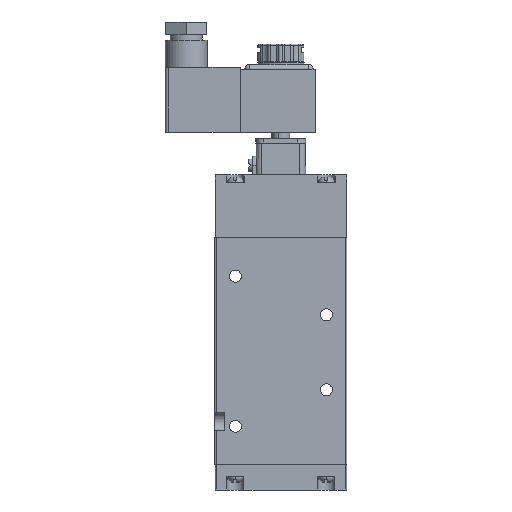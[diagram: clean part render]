
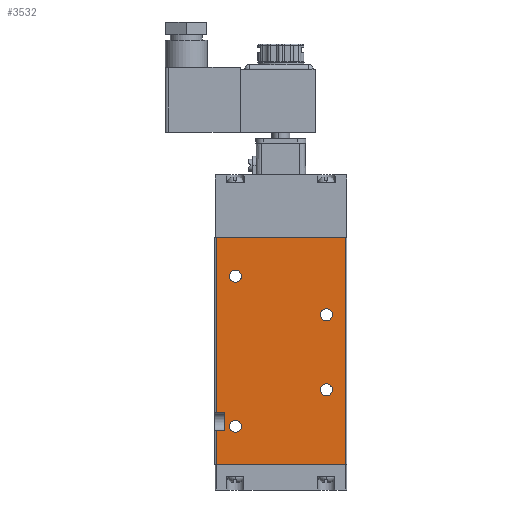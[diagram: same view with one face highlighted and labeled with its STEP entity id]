
A CAD part, left-side view. The second image highlights one B-rep face of the part: STEP entity #3532.
In plain terms, the highlighted planar face has unit normal (-1, 0, 0) as drawn and (0, 0, -1) by its records, which use the part's own axes.
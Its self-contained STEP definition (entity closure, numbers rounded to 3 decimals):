
#13 = EDGE_CURVE ( 'NONE', #4111, #13794, #6126, .T. ) ;
#678 = DIRECTION ( 'NONE',  ( 0., 0., -1. ) ) ;
#762 = CARTESIAN_POINT ( 'NONE',  ( -100., -29., -17. ) ) ;
#918 = DIRECTION ( 'NONE',  ( 0., 0., 1. ) ) ;
#992 = CIRCLE ( 'NONE', #7113, 2.65 ) ;
#1002 = ORIENTED_EDGE ( 'NONE', *, *, #11766, .F. ) ;
#1087 = EDGE_LOOP ( 'NONE', ( #19216, #18750 ) ) ;
#1547 = CARTESIAN_POINT ( 'NONE',  ( -100., 28.5, -17. ) ) ;
#1812 = DIRECTION ( 'NONE',  ( 1., 0., 0. ) ) ;
#2078 = ORIENTED_EDGE ( 'NONE', *, *, #18676, .T. ) ;
#2230 = DIRECTION ( 'NONE',  ( -1., 0., 0. ) ) ;
#2251 = DIRECTION ( 'NONE',  ( 1., 0., 0. ) ) ;
#2809 = DIRECTION ( 'NONE',  ( 1., 0., 0. ) ) ;
#2901 = EDGE_CURVE ( 'NONE', #23182, #4729, #5872, .T. ) ;
#3398 = CARTESIAN_POINT ( 'NONE',  ( -77., -24.7, -17. ) ) ;
#3507 = EDGE_CURVE ( 'NONE', #3999, #6198, #10714, .T. ) ;
#3532 = ADVANCED_FACE ( 'NONE', ( #4242, #5687, #16789, #4019, #20357 ), #20686, .T. ) ;
#3594 = CARTESIAN_POINT ( 'NONE',  ( -17., -20., -17. ) ) ;
#3686 = LINE ( 'NONE', #16102, #18028 ) ;
#3999 = VERTEX_POINT ( 'NONE', #20444 ) ;
#4019 = FACE_BOUND ( 'NONE', #14210, .T. ) ;
#4111 = VERTEX_POINT ( 'NONE', #23274 ) ;
#4242 = FACE_BOUND ( 'NONE', #1087, .T. ) ;
#4313 = AXIS2_PLACEMENT_3D ( 'NONE', #5922, #678, #2230 ) ;
#4674 = VECTOR ( 'NONE', #17862, 1000. ) ;
#4729 = VERTEX_POINT ( 'NONE', #9715 ) ;
#4898 = DIRECTION ( 'NONE',  ( 1., 0., 0. ) ) ;
#4967 = CARTESIAN_POINT ( 'NONE',  ( -85., -28.5, -17. ) ) ;
#5131 = EDGE_CURVE ( 'NONE', #14912, #22352, #7805, .T. ) ;
#5354 = CARTESIAN_POINT ( 'NONE',  ( -77., -28.5, -17. ) ) ;
#5456 = LINE ( 'NONE', #12768, #19464 ) ;
#5601 = CARTESIAN_POINT ( 'NONE',  ( -36.65, 20., -17. ) ) ;
#5687 = FACE_BOUND ( 'NONE', #11350, .T. ) ;
#5872 = CIRCLE ( 'NONE', #22250, 2.65 ) ;
#5917 = DIRECTION ( 'NONE',  ( -1., 0., 0. ) ) ;
#5922 = CARTESIAN_POINT ( 'NONE',  ( -100., -29., -17. ) ) ;
#5966 = CARTESIAN_POINT ( 'NONE',  ( -34., 20., -17. ) ) ;
#6010 = DIRECTION ( 'NONE',  ( 1., 0., 0. ) ) ;
#6126 = CIRCLE ( 'NONE', #9909, 2.65 ) ;
#6132 = DIRECTION ( 'NONE',  ( -1., 0., 0. ) ) ;
#6198 = VERTEX_POINT ( 'NONE', #21714 ) ;
#6343 = ORIENTED_EDGE ( 'NONE', *, *, #6731, .T. ) ;
#6441 = CARTESIAN_POINT ( 'NONE',  ( -85., -24.7, -17. ) ) ;
#6731 = EDGE_CURVE ( 'NONE', #10157, #16362, #8403, .T. ) ;
#7113 = AXIS2_PLACEMENT_3D ( 'NONE', #11322, #17027, #2251 ) ;
#7134 = LINE ( 'NONE', #12514, #11693 ) ;
#7596 = EDGE_CURVE ( 'NONE', #15826, #20855, #20254, .T. ) ;
#7805 = LINE ( 'NONE', #762, #17129 ) ;
#7809 = DIRECTION ( 'NONE',  ( 0., 0., 1. ) ) ;
#7823 = ORIENTED_EDGE ( 'NONE', *, *, #8693, .T. ) ;
#7855 = ORIENTED_EDGE ( 'NONE', *, *, #16754, .F. ) ;
#7877 = AXIS2_PLACEMENT_3D ( 'NONE', #5966, #20181, #9659 ) ;
#7915 = VERTEX_POINT ( 'NONE', #3398 ) ;
#8403 = CIRCLE ( 'NONE', #22885, 2.65 ) ;
#8461 = CARTESIAN_POINT ( 'NONE',  ( -83., -20., -17. ) ) ;
#8693 = EDGE_CURVE ( 'NONE', #16208, #11629, #3686, .T. ) ;
#9042 = CARTESIAN_POINT ( 'NONE',  ( 0., -29., -17. ) ) ;
#9358 = DIRECTION ( 'NONE',  ( 0., 1., 0. ) ) ;
#9498 = LINE ( 'NONE', #22258, #20807 ) ;
#9659 = DIRECTION ( 'NONE',  ( 1., 0., 0. ) ) ;
#9715 = CARTESIAN_POINT ( 'NONE',  ( -69.65, 20., -17. ) ) ;
#9909 = AXIS2_PLACEMENT_3D ( 'NONE', #3594, #10877, #1812 ) ;
#10157 = VERTEX_POINT ( 'NONE', #23364 ) ;
#10394 = CARTESIAN_POINT ( 'NONE',  ( -17., -20., -17. ) ) ;
#10578 = ORIENTED_EDGE ( 'NONE', *, *, #13387, .T. ) ;
#10714 = LINE ( 'NONE', #9042, #4674 ) ;
#10877 = DIRECTION ( 'NONE',  ( 0., 0., 1. ) ) ;
#11060 = EDGE_LOOP ( 'NONE', ( #13266, #10578 ) ) ;
#11322 = CARTESIAN_POINT ( 'NONE',  ( -67., 20., -17. ) ) ;
#11350 = EDGE_LOOP ( 'NONE', ( #22922, #23527 ) ) ;
#11535 = EDGE_CURVE ( 'NONE', #4729, #23182, #992, .T. ) ;
#11629 = VERTEX_POINT ( 'NONE', #4967 ) ;
#11693 = VECTOR ( 'NONE', #19767, 1000. ) ;
#11766 = EDGE_CURVE ( 'NONE', #7915, #13802, #7134, .T. ) ;
#11958 = EDGE_CURVE ( 'NONE', #3999, #13802, #9498, .T. ) ;
#11972 = VECTOR ( 'NONE', #21429, 1000. ) ;
#12075 = CIRCLE ( 'NONE', #13991, 2.65 ) ;
#12290 = CARTESIAN_POINT ( 'NONE',  ( -100., 28.5, -17. ) ) ;
#12514 = CARTESIAN_POINT ( 'NONE',  ( -77., -24.7, -17. ) ) ;
#12768 = CARTESIAN_POINT ( 'NONE',  ( -77., -24.7, -17. ) ) ;
#12893 = CARTESIAN_POINT ( 'NONE',  ( -19.65, -20., -17. ) ) ;
#13266 = ORIENTED_EDGE ( 'NONE', *, *, #13, .T. ) ;
#13387 = EDGE_CURVE ( 'NONE', #13794, #4111, #22034, .T. ) ;
#13534 = CARTESIAN_POINT ( 'NONE',  ( -100., -28.5, -17. ) ) ;
#13794 = VERTEX_POINT ( 'NONE', #12893 ) ;
#13797 = CARTESIAN_POINT ( 'NONE',  ( -83., -20., -17. ) ) ;
#13802 = VERTEX_POINT ( 'NONE', #5354 ) ;
#13991 = AXIS2_PLACEMENT_3D ( 'NONE', #8461, #17280, #20735 ) ;
#14210 = EDGE_LOOP ( 'NONE', ( #21118, #6343 ) ) ;
#14665 = VECTOR ( 'NONE', #6132, 1000. ) ;
#14682 = CARTESIAN_POINT ( 'NONE',  ( -80.35, -20., -17. ) ) ;
#14912 = VERTEX_POINT ( 'NONE', #13534 ) ;
#14943 = AXIS2_PLACEMENT_3D ( 'NONE', #21198, #15976, #19548 ) ;
#15208 = LINE ( 'NONE', #22482, #14665 ) ;
#15826 = VERTEX_POINT ( 'NONE', #17926 ) ;
#15976 = DIRECTION ( 'NONE',  ( 0., 0., 1. ) ) ;
#16102 = CARTESIAN_POINT ( 'NONE',  ( -85., -24.7, -17. ) ) ;
#16124 = ORIENTED_EDGE ( 'NONE', *, *, #3507, .F. ) ;
#16208 = VERTEX_POINT ( 'NONE', #6441 ) ;
#16266 = EDGE_LOOP ( 'NONE', ( #7823, #19936, #23306, #2078, #16124, #19647, #1002, #7855 ) ) ;
#16362 = VERTEX_POINT ( 'NONE', #14682 ) ;
#16754 = EDGE_CURVE ( 'NONE', #16208, #7915, #5456, .T. ) ;
#16789 = FACE_BOUND ( 'NONE', #11060, .T. ) ;
#16980 = CARTESIAN_POINT ( 'NONE',  ( -67., 20., -17. ) ) ;
#17027 = DIRECTION ( 'NONE',  ( 0., 0., 1. ) ) ;
#17129 = VECTOR ( 'NONE', #9358, 1000. ) ;
#17280 = DIRECTION ( 'NONE',  ( 0., 0., 1. ) ) ;
#17862 = DIRECTION ( 'NONE',  ( 0., 1., 0. ) ) ;
#17926 = CARTESIAN_POINT ( 'NONE',  ( -31.35, 20., -17. ) ) ;
#18028 = VECTOR ( 'NONE', #23140, 1000. ) ;
#18238 = AXIS2_PLACEMENT_3D ( 'NONE', #10394, #21233, #4898 ) ;
#18563 = CIRCLE ( 'NONE', #7877, 2.65 ) ;
#18676 = EDGE_CURVE ( 'NONE', #22352, #6198, #19900, .T. ) ;
#18750 = ORIENTED_EDGE ( 'NONE', *, *, #22096, .T. ) ;
#19216 = ORIENTED_EDGE ( 'NONE', *, *, #7596, .T. ) ;
#19340 = EDGE_CURVE ( 'NONE', #11629, #14912, #15208, .T. ) ;
#19464 = VECTOR ( 'NONE', #20014, 1000. ) ;
#19548 = DIRECTION ( 'NONE',  ( 1., 0., 0. ) ) ;
#19647 = ORIENTED_EDGE ( 'NONE', *, *, #11958, .T. ) ;
#19767 = DIRECTION ( 'NONE',  ( 0., -1., 0. ) ) ;
#19900 = LINE ( 'NONE', #1547, #11972 ) ;
#19936 = ORIENTED_EDGE ( 'NONE', *, *, #19340, .T. ) ;
#20014 = DIRECTION ( 'NONE',  ( 1., 0., 0. ) ) ;
#20181 = DIRECTION ( 'NONE',  ( 0., 0., 1. ) ) ;
#20254 = CIRCLE ( 'NONE', #14943, 2.65 ) ;
#20357 = FACE_OUTER_BOUND ( 'NONE', #16266, .T. ) ;
#20444 = CARTESIAN_POINT ( 'NONE',  ( 0., -28.5, -17. ) ) ;
#20686 = PLANE ( 'NONE',  #4313 ) ;
#20735 = DIRECTION ( 'NONE',  ( 1., 0., 0. ) ) ;
#20807 = VECTOR ( 'NONE', #5917, 1000. ) ;
#20855 = VERTEX_POINT ( 'NONE', #5601 ) ;
#21118 = ORIENTED_EDGE ( 'NONE', *, *, #22296, .T. ) ;
#21198 = CARTESIAN_POINT ( 'NONE',  ( -34., 20., -17. ) ) ;
#21233 = DIRECTION ( 'NONE',  ( 0., 0., 1. ) ) ;
#21429 = DIRECTION ( 'NONE',  ( 1., 0., 0. ) ) ;
#21714 = CARTESIAN_POINT ( 'NONE',  ( 0., 28.5, -17. ) ) ;
#22034 = CIRCLE ( 'NONE', #18238, 2.65 ) ;
#22096 = EDGE_CURVE ( 'NONE', #20855, #15826, #18563, .T. ) ;
#22250 = AXIS2_PLACEMENT_3D ( 'NONE', #16980, #7809, #6010 ) ;
#22258 = CARTESIAN_POINT ( 'NONE',  ( -100., -28.5, -17. ) ) ;
#22296 = EDGE_CURVE ( 'NONE', #16362, #10157, #12075, .T. ) ;
#22303 = CARTESIAN_POINT ( 'NONE',  ( -64.35, 20., -17. ) ) ;
#22352 = VERTEX_POINT ( 'NONE', #12290 ) ;
#22482 = CARTESIAN_POINT ( 'NONE',  ( -100., -28.5, -17. ) ) ;
#22885 = AXIS2_PLACEMENT_3D ( 'NONE', #13797, #918, #2809 ) ;
#22922 = ORIENTED_EDGE ( 'NONE', *, *, #2901, .T. ) ;
#23140 = DIRECTION ( 'NONE',  ( 0., -1., 0. ) ) ;
#23182 = VERTEX_POINT ( 'NONE', #22303 ) ;
#23274 = CARTESIAN_POINT ( 'NONE',  ( -14.35, -20., -17. ) ) ;
#23306 = ORIENTED_EDGE ( 'NONE', *, *, #5131, .T. ) ;
#23364 = CARTESIAN_POINT ( 'NONE',  ( -85.65, -20., -17. ) ) ;
#23527 = ORIENTED_EDGE ( 'NONE', *, *, #11535, .T. ) ;
